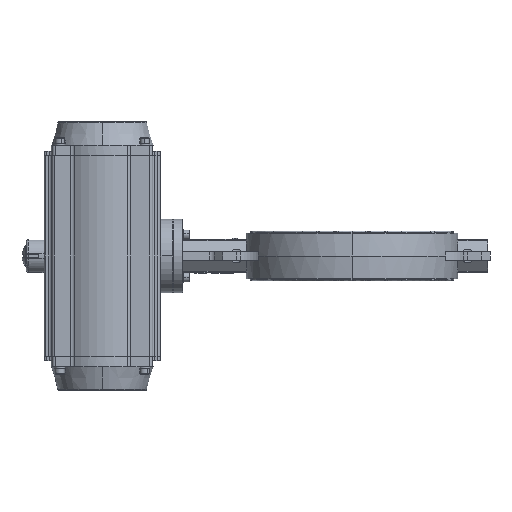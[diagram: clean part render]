
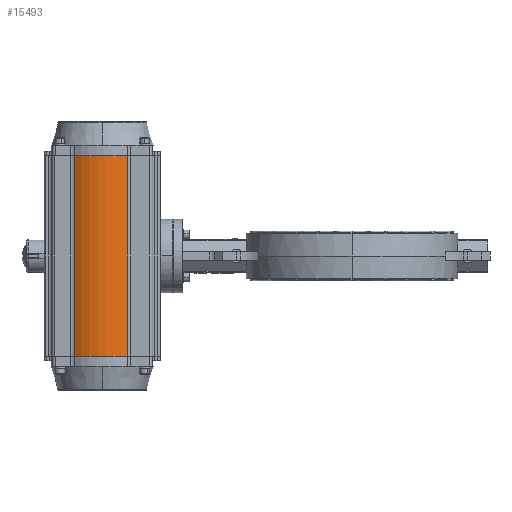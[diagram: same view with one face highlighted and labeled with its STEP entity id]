
A CAD part, left-side view. The second image highlights one B-rep face of the part: STEP entity #15493.
In plain terms, the highlighted cylindrical face has radius 87 mm (diameter 174 mm), a partial arc.
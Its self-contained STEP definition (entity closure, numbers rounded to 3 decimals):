
#4608 = CARTESIAN_POINT ( 'NONE',  ( -74.995, 379.746, -170. ) ) ;
#4610 = CARTESIAN_POINT ( 'NONE',  ( -72.304, 471.118, -170. ) ) ;
#4754 = VERTEX_POINT ( 'NONE', #4608 ) ;
#5264 = VERTEX_POINT ( 'NONE', #66898 ) ;
#6777 = EDGE_CURVE ( 'NONE', #5264, #89173, #100281, .T. ) ;
#8048 = AXIS2_PLACEMENT_3D ( 'NONE', #101019, #46589, #83960 ) ;
#14278 = ORIENTED_EDGE ( 'NONE', *, *, #67314, .F. ) ;
#15409 = DIRECTION ( 'NONE',  ( 1., 0., 0. ) ) ;
#15493 = ADVANCED_FACE ( 'NONE', ( #59503 ), #112101, .T. ) ;
#25646 = DIRECTION ( 'NONE',  ( 0., 0., -1. ) ) ;
#27654 = CARTESIAN_POINT ( 'NONE',  ( -74.995, 379.746, -613.224 ) ) ;
#27774 = VECTOR ( 'NONE', #25646, 1000. ) ;
#43227 = EDGE_CURVE ( 'NONE', #89173, #4754, #115053, .T. ) ;
#44991 = AXIS2_PLACEMENT_3D ( 'NONE', #60625, #59835, #95979 ) ;
#46589 = DIRECTION ( 'NONE',  ( 0., 0., 1. ) ) ;
#48908 = ORIENTED_EDGE ( 'NONE', *, *, #6777, .T. ) ;
#59503 = FACE_OUTER_BOUND ( 'NONE', #73027, .T. ) ;
#59835 = DIRECTION ( 'NONE',  ( 0., 0., 1. ) ) ;
#60625 = CARTESIAN_POINT ( 'NONE',  ( 0.346, 423.253, -170. ) ) ;
#61843 = CARTESIAN_POINT ( 'NONE',  ( 0.346, 423.253, -170. ) ) ;
#62070 = LINE ( 'NONE', #27654, #107542 ) ;
#66898 = CARTESIAN_POINT ( 'NONE',  ( -72.304, 471.118, 170. ) ) ;
#66927 = VERTEX_POINT ( 'NONE', #114606 ) ;
#67314 = EDGE_CURVE ( 'NONE', #5264, #66927, #116984, .T. ) ;
#72929 = EDGE_CURVE ( 'NONE', #4754, #66927, #62070, .T. ) ;
#73027 = EDGE_LOOP ( 'NONE', ( #14278, #48908, #109969, #88613 ) ) ;
#79746 = DIRECTION ( 'NONE',  ( 0., 0., 1. ) ) ;
#83960 = DIRECTION ( 'NONE',  ( 1., 0., 0. ) ) ;
#88613 = ORIENTED_EDGE ( 'NONE', *, *, #72929, .T. ) ;
#89173 = VERTEX_POINT ( 'NONE', #4610 ) ;
#91233 = DIRECTION ( 'NONE',  ( 0., 0., 1. ) ) ;
#95979 = DIRECTION ( 'NONE',  ( 1., 0., 0. ) ) ;
#96751 = AXIS2_PLACEMENT_3D ( 'NONE', #61843, #79746, #15409 ) ;
#97912 = CARTESIAN_POINT ( 'NONE',  ( -72.304, 471.118, -170. ) ) ;
#100281 = LINE ( 'NONE', #97912, #27774 ) ;
#101019 = CARTESIAN_POINT ( 'NONE',  ( 0.346, 423.253, 170. ) ) ;
#107542 = VECTOR ( 'NONE', #91233, 1000. ) ;
#109969 = ORIENTED_EDGE ( 'NONE', *, *, #43227, .T. ) ;
#112101 = CYLINDRICAL_SURFACE ( 'NONE', #96751, 87. ) ;
#114606 = CARTESIAN_POINT ( 'NONE',  ( -74.995, 379.746, 170. ) ) ;
#115053 = CIRCLE ( 'NONE', #44991, 87. ) ;
#116984 = CIRCLE ( 'NONE', #8048, 87. ) ;
